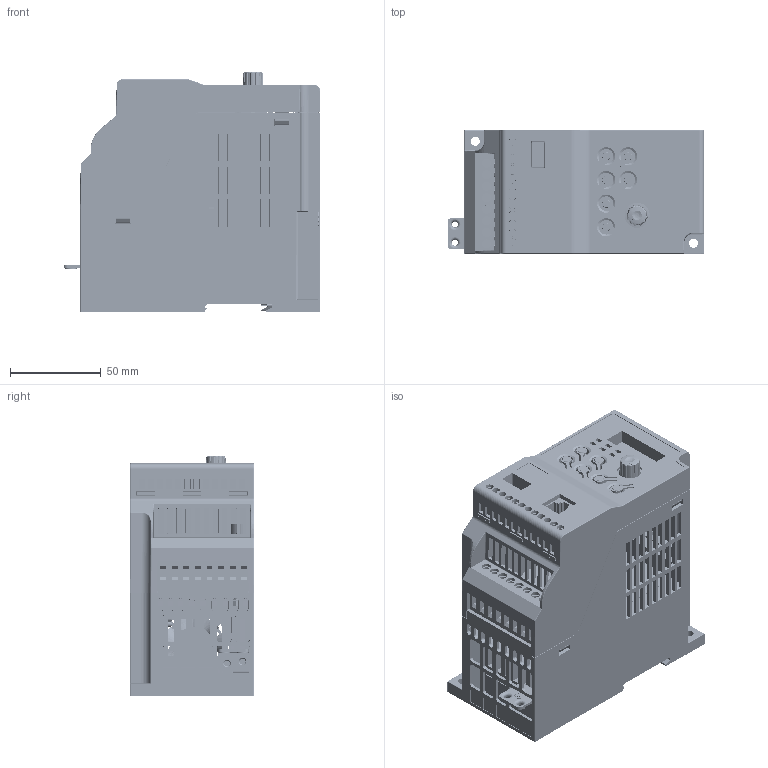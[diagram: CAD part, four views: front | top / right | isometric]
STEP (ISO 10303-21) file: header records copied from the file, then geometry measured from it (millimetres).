
FILE_DESCRIPTION((''),'2;1');
FILE_NAME('S600-A_ASM','2022-04-22T09:09:15',('ZhangJF'),(''),'CREO PARAMETRIC BY PTC INC, 2019010','CREO PARAMETRIC BY PTC INC, 2019010','');
FILE_SCHEMA(('CONFIG_CONTROL_DESIGN','SHAPE_APPEARANCE_LAYERS_GROUPS'));
Products named in the file (39): S600A_SKEL_73_1; SHANGGAI-210312_697_1; XIAGAI-210312_503_1; FENGSHANJIA-210325_111_1; KONGZHIBAN-20201223_55_1_1; KONGZHIBAN-20201223_55_2_1; KONGZHIBAN-20201223_55_ASM_1_ASM; PCB-11-210222_13_1_1; PCB-11-210222_13_2_1; PCB-11-210222_13_3_1; PCB-11-210222_13_ASM_1_ASM; M3X1000_9_1; 2-2107140001_10_1; PCB-22-210222_21_1_1; PCB-22-210222_21_2_1; PCB-22-210222_21_3_1; PCB-22-210222_21_4_1; PCB-22-210222_21_5_1; PCB-22-210222_21_6_1; PCB-22-210222_21_7_1; PCB-22-210222_21_8_1; PCB-22-210222_21_9_1; PCB-22-210222_21_ASM_1_ASM; PCB-33-210222_2_1_1; PCB-33-210222_2_2_1; PCB-33-210222_2_ASM_1_ASM; JUEYUANZHI1_17_1; JUEYUANZHI2_9_1; JUEYUANZHI3_14_1; 10001_13_1; 20001_6_1; PCB-210222_ASM_53_ASM_1_ASM; 40X4000_11_1; 0001_40_1; 4X800_14_1; 0002_78_1; XUANNIU-20210318_5_1; S600A_ASM_440_ASM_1_ASM; S600-A_ASM
Assembly tree (42 placements, depth 5):
  S600-A_ASM
    S600A_ASM_440_ASM_1_ASM
      S600A_SKEL_73_1
      SHANGGAI-210312_697_1
      XIAGAI-210312_503_1
      FENGSHANJIA-210325_111_1
      KONGZHIBAN-20201223_55_ASM_1_ASM
        KONGZHIBAN-20201223_55_1_1
        KONGZHIBAN-20201223_55_2_1
      PCB-210222_ASM_53_ASM_1_ASM
        PCB-11-210222_13_ASM_1_ASM
          PCB-11-210222_13_1_1
          PCB-11-210222_13_2_1
          PCB-11-210222_13_3_1
        M3X1000_9_1  x3
        2-2107140001_10_1
        PCB-22-210222_21_ASM_1_ASM
          PCB-22-210222_21_1_1
          PCB-22-210222_21_2_1
          PCB-22-210222_21_3_1
          PCB-22-210222_21_4_1
          PCB-22-210222_21_5_1
          PCB-22-210222_21_6_1
          PCB-22-210222_21_7_1
          PCB-22-210222_21_8_1
          PCB-22-210222_21_9_1
        PCB-33-210222_2_ASM_1_ASM
          PCB-33-210222_2_1_1
          PCB-33-210222_2_2_1
        JUEYUANZHI1_17_1
        JUEYUANZHI2_9_1
        JUEYUANZHI3_14_1
        10001_13_1
        20001_6_1
      40X4000_11_1
      0001_40_1  x2
      4X800_14_1  x2
      0002_78_1
      XUANNIU-20210318_5_1
Bounding box: 141.2 x 68 x 132.2 mm (x, y, z)
Volume: 316128 mm3; surface area: 314323.6 mm2
Topology: 35 solids, 41 shells, 5957 faces, 16252 edges, 10717 vertices
Faces by surface type: plane 3744, cylinder 1334, extrusion 359, cone 240, torus 119, bspline 117, sphere 39, revolution 5
Entity records: 268706 total; most frequent: CARTESIAN_POINT 47790, ORIENTED_EDGE 31880, DIRECTION 28717, EDGE_CURVE 15940, PRESENTATION_STYLE_ASSIGNMENT 15922, STYLED_ITEM 15922, VECTOR 11466, LINE 11107
